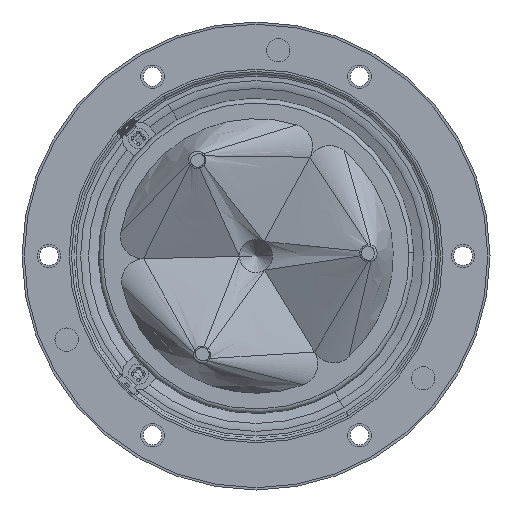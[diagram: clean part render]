
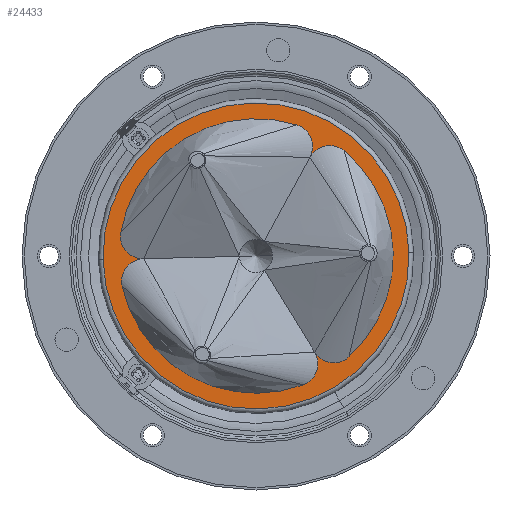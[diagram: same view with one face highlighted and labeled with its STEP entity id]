
A CAD part, front view. The second image highlights one B-rep face of the part: STEP entity #24433.
In plain terms, the highlighted planar face has unit normal (0, -1, 0).
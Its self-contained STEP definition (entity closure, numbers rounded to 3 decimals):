
#151 = AXIS2_PLACEMENT_3D ( 'NONE', #4670, #7890, #10635 ) ;
#402 = AXIS2_PLACEMENT_3D ( 'NONE', #22701, #4625, #18485 ) ;
#427 = CARTESIAN_POINT ( 'NONE',  ( 0., -2., 0. ) ) ;
#696 = CARTESIAN_POINT ( 'NONE',  ( 9.071, -2., 29.12 ) ) ;
#1232 = DIRECTION ( 'NONE',  ( 0., 1., 0. ) ) ;
#1284 = CIRCLE ( 'NONE', #17323, 30.5 ) ;
#1320 = CARTESIAN_POINT ( 'NONE',  ( 19.571, -2., 23.393 ) ) ;
#1652 = EDGE_CURVE ( 'NONE', #16758, #22996, #7956, .T. ) ;
#1715 = CARTESIAN_POINT ( 'NONE',  ( -25.119, -2., 4.392 ) ) ;
#2076 = CARTESIAN_POINT ( 'NONE',  ( 33.99, -2., 0.825 ) ) ;
#2453 = EDGE_CURVE ( 'NONE', #24571, #7625, #9707, .T. ) ;
#2562 = VERTEX_POINT ( 'NONE', #15199 ) ;
#2563 = FACE_BOUND ( 'NONE', #12307, .T. ) ;
#2774 = CARTESIAN_POINT ( 'NONE',  ( 0., -2., 0. ) ) ;
#3604 = VERTEX_POINT ( 'NONE', #20318 ) ;
#4036 = EDGE_CURVE ( 'NONE', #3604, #20326, #1284, .T. ) ;
#4081 = DIRECTION ( 'NONE',  ( -0.521, 0., 0.854 ) ) ;
#4625 = DIRECTION ( 'NONE',  ( 0., 1., 0. ) ) ;
#4652 = CARTESIAN_POINT ( 'NONE',  ( 0., -2., 0. ) ) ;
#4670 = CARTESIAN_POINT ( 'NONE',  ( 0., -2., 0. ) ) ;
#5078 = CIRCLE ( 'NONE', #20211, 30.5 ) ;
#5448 = DIRECTION ( 'NONE',  ( -0.479, 0., -0.878 ) ) ;
#5581 = ORIENTED_EDGE ( 'NONE', *, *, #15214, .T. ) ;
#6551 = EDGE_CURVE ( 'NONE', #14417, #15287, #11826, .T. ) ;
#6571 = CARTESIAN_POINT ( 'NONE',  ( 7.584, -2., 24.346 ) ) ;
#6716 = VERTEX_POINT ( 'NONE', #696 ) ;
#6760 = DIRECTION ( 'NONE',  ( 0., -1., 0. ) ) ;
#6871 = ORIENTED_EDGE ( 'NONE', *, *, #19453, .T. ) ;
#6984 = EDGE_CURVE ( 'NONE', #2562, #6716, #5078, .T. ) ;
#7235 = AXIS2_PLACEMENT_3D ( 'NONE', #6571, #22277, #4081 ) ;
#7617 = DIRECTION ( 'NONE',  ( 0., 1., 0. ) ) ;
#7625 = VERTEX_POINT ( 'NONE', #21766 ) ;
#7890 = DIRECTION ( 'NONE',  ( 0., 1., 0. ) ) ;
#7956 = CIRCLE ( 'NONE', #23103, 34. ) ;
#8377 = CARTESIAN_POINT ( 'NONE',  ( -33.99, -2., -0.825 ) ) ;
#8451 = EDGE_CURVE ( 'NONE', #6716, #14417, #11921, .T. ) ;
#8523 = ORIENTED_EDGE ( 'NONE', *, *, #6551, .T. ) ;
#9039 = EDGE_CURVE ( 'NONE', #22996, #16758, #12364, .T. ) ;
#9372 = DIRECTION ( 'NONE',  ( 0., 1., 0. ) ) ;
#9382 = DIRECTION ( 'NONE',  ( 0., 1., 0. ) ) ;
#9424 = ORIENTED_EDGE ( 'NONE', *, *, #4036, .T. ) ;
#9688 = CARTESIAN_POINT ( 'NONE',  ( -29.754, -2., -6.704 ) ) ;
#9707 = CIRCLE ( 'NONE', #23600, 5. ) ;
#10618 = DIRECTION ( 'NONE',  ( 1., 0., 0.024 ) ) ;
#10635 = DIRECTION ( 'NONE',  ( 1., 0., 0.024 ) ) ;
#10998 = CIRCLE ( 'NONE', #21919, 5. ) ;
#11030 = DIRECTION ( 'NONE',  ( 1., 0., 0.024 ) ) ;
#11089 = ORIENTED_EDGE ( 'NONE', *, *, #6984, .T. ) ;
#11237 = FACE_OUTER_BOUND ( 'NONE', #18238, .T. ) ;
#11418 = EDGE_CURVE ( 'NONE', #15287, #24571, #12054, .T. ) ;
#11826 = CIRCLE ( 'NONE', #402, 5. ) ;
#11921 = CIRCLE ( 'NONE', #7235, 5. ) ;
#12002 = ORIENTED_EDGE ( 'NONE', *, *, #1652, .T. ) ;
#12054 = CIRCLE ( 'NONE', #20398, 30.5 ) ;
#12239 = CIRCLE ( 'NONE', #21921, 5. ) ;
#12307 = EDGE_LOOP ( 'NONE', ( #15238, #8523, #18520, #23379, #19919, #9424, #5581, #6871, #11089 ) ) ;
#12364 = CIRCLE ( 'NONE', #22446, 34. ) ;
#12846 = CARTESIAN_POINT ( 'NONE',  ( 17.292, -2., -18.741 ) ) ;
#13488 = CARTESIAN_POINT ( 'NONE',  ( -24.876, -2., -5.605 ) ) ;
#13617 = DIRECTION ( 'NONE',  ( 0., 1., 0. ) ) ;
#14283 = DIRECTION ( 'NONE',  ( 0., -1., 0. ) ) ;
#14417 = VERTEX_POINT ( 'NONE', #23910 ) ;
#15177 = VERTEX_POINT ( 'NONE', #19024 ) ;
#15199 = CARTESIAN_POINT ( 'NONE',  ( -30.044, -2., 5.253 ) ) ;
#15214 = EDGE_CURVE ( 'NONE', #20326, #15177, #10998, .T. ) ;
#15238 = ORIENTED_EDGE ( 'NONE', *, *, #8451, .T. ) ;
#15287 = VERTEX_POINT ( 'NONE', #1320 ) ;
#16149 = DIRECTION ( 'NONE',  ( -0.521, 0., 0.854 ) ) ;
#16655 = DIRECTION ( 'NONE',  ( 0., 1., 0. ) ) ;
#16758 = VERTEX_POINT ( 'NONE', #2076 ) ;
#16960 = CIRCLE ( 'NONE', #16977, 5. ) ;
#16977 = AXIS2_PLACEMENT_3D ( 'NONE', #19234, #7617, #25613 ) ;
#17323 = AXIS2_PLACEMENT_3D ( 'NONE', #2774, #9372, #25507 ) ;
#17433 = DIRECTION ( 'NONE',  ( -0.521, 0., 0.854 ) ) ;
#17745 = CARTESIAN_POINT ( 'NONE',  ( 0., -2., 0. ) ) ;
#18238 = EDGE_LOOP ( 'NONE', ( #12002, #19586 ) ) ;
#18485 = DIRECTION ( 'NONE',  ( 1., 0., 0.024 ) ) ;
#18520 = ORIENTED_EDGE ( 'NONE', *, *, #11418, .T. ) ;
#18521 = CARTESIAN_POINT ( 'NONE',  ( 0., -2., 0. ) ) ;
#19024 = CARTESIAN_POINT ( 'NONE',  ( -24.998, -2., -0.607 ) ) ;
#19234 = CARTESIAN_POINT ( 'NONE',  ( 8.756, -2., -23.95 ) ) ;
#19453 = EDGE_CURVE ( 'NONE', #15177, #2562, #12239, .T. ) ;
#19586 = ORIENTED_EDGE ( 'NONE', *, *, #9039, .T. ) ;
#19919 = ORIENTED_EDGE ( 'NONE', *, *, #24391, .T. ) ;
#20211 = AXIS2_PLACEMENT_3D ( 'NONE', #4652, #24465, #16149 ) ;
#20318 = CARTESIAN_POINT ( 'NONE',  ( 10.473, -2., -28.646 ) ) ;
#20326 = VERTEX_POINT ( 'NONE', #9688 ) ;
#20398 = AXIS2_PLACEMENT_3D ( 'NONE', #17745, #1232, #23827 ) ;
#21766 = CARTESIAN_POINT ( 'NONE',  ( 13.024, -2., -21.345 ) ) ;
#21919 = AXIS2_PLACEMENT_3D ( 'NONE', #13488, #13617, #5448 ) ;
#21921 = AXIS2_PLACEMENT_3D ( 'NONE', #1715, #9382, #17433 ) ;
#22277 = DIRECTION ( 'NONE',  ( 0., 1., 0. ) ) ;
#22446 = AXIS2_PLACEMENT_3D ( 'NONE', #18521, #6760, #11030 ) ;
#22701 = CARTESIAN_POINT ( 'NONE',  ( 16.363, -2., 19.558 ) ) ;
#22996 = VERTEX_POINT ( 'NONE', #8377 ) ;
#23103 = AXIS2_PLACEMENT_3D ( 'NONE', #427, #14283, #24589 ) ;
#23379 = ORIENTED_EDGE ( 'NONE', *, *, #2453, .T. ) ;
#23600 = AXIS2_PLACEMENT_3D ( 'NONE', #12846, #16655, #10618 ) ;
#23827 = DIRECTION ( 'NONE',  ( 1., 0., 0.024 ) ) ;
#23910 = CARTESIAN_POINT ( 'NONE',  ( 11.973, -2., 21.952 ) ) ;
#24134 = PLANE ( 'NONE',  #151 ) ;
#24391 = EDGE_CURVE ( 'NONE', #7625, #3604, #16960, .T. ) ;
#24433 = ADVANCED_FACE ( 'NONE', ( #11237, #2563 ), #24134, .F. ) ;
#24465 = DIRECTION ( 'NONE',  ( 0., 1., 0. ) ) ;
#24571 = VERTEX_POINT ( 'NONE', #26010 ) ;
#24589 = DIRECTION ( 'NONE',  ( 1., 0., 0.024 ) ) ;
#25507 = DIRECTION ( 'NONE',  ( -0.479, 0., -0.878 ) ) ;
#25613 = DIRECTION ( 'NONE',  ( -0.479, 0., -0.878 ) ) ;
#26010 = CARTESIAN_POINT ( 'NONE',  ( 20.683, -2., -22.416 ) ) ;
